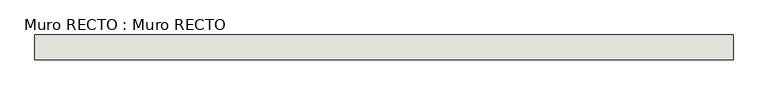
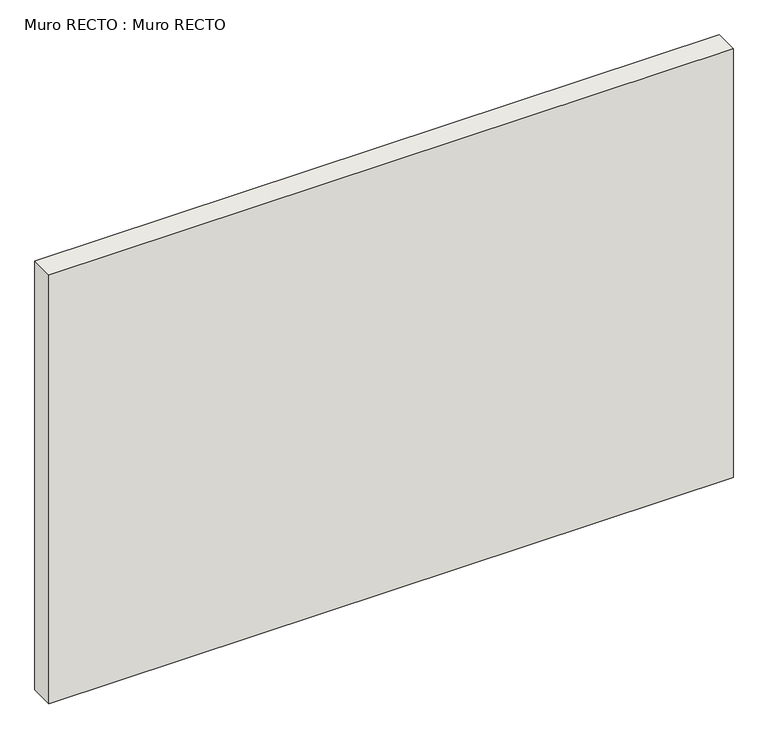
"""IFC4 building model written with IfcOpenShell, lengths in millimetres: wall geometry, Muro RECTO : Muro RECTO."""

from ifc_helpers import new_model, si_unit, frame, origin, place, context, project, spatial, polyline, outline, extrude, source, transform, mapped, element, save


def muro_recto_muro_recto_891dabb9(model_context):
    return source(origin(), model_context, "Body", "SweptSolid", [
        extrude(outline(polyline([(4162.5818768, 3207.4322597), (793.3662897, 3207.4322597), (793.3662897, 3327.4322597), (4162.5818768, 3327.4322597), (4162.5818768, 3207.4322597)])), frame((0.0, 0.0, -30.0), z_axis=(0.0, 0.0, 1.0), x_axis=(1.0, 0.0, 0.0)), (0.0, 0.0, 1.0), 2233.0168181),
    ])


if __name__ == "__main__":
    model = new_model("IFC4")
    model_context = context("Model", 3, world=origin())
    ifc_project = project(units=[si_unit("LENGTHUNIT", "METRE", prefix="MILLI")], contexts=[model_context])
    site = spatial("IfcSite", under=ifc_project)
    building = spatial("IfcBuilding", under=site)
    placement = place(None, origin())
    muro_recto_muro_recto_shape = muro_recto_muro_recto_891dabb9(model_context)
    element("IfcWall", 1, ObjectType="Muro RECTO : Muro RECTO", at=placement, inside=building, context=model_context, shape_type="MappedRepresentation", body=[
        mapped(muro_recto_muro_recto_shape, transform((0.0, 0.0, 0.0), x_axis=(1.0, 0.0, 0.0), y_axis=(0.0, 1.0, 0.0), z_axis=(0.0, 0.0, 1.0))),
    ])
    save(model, "model.ifc")
